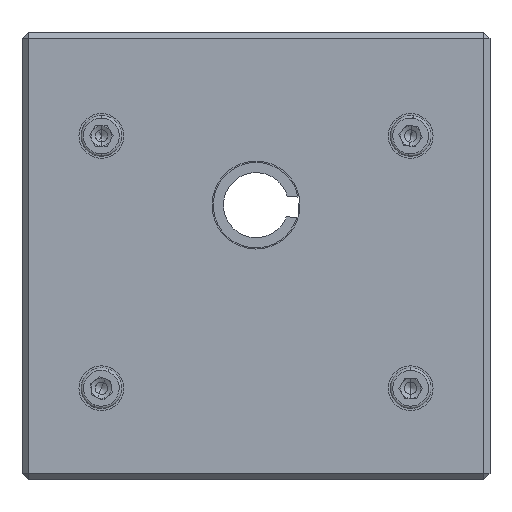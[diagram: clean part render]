
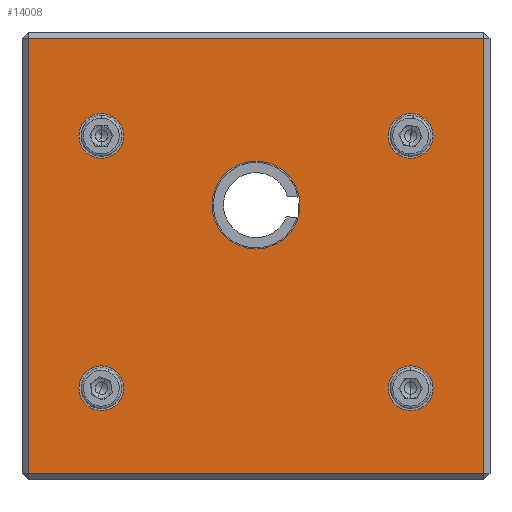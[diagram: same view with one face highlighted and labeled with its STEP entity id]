
A CAD part, left-side view. The second image highlights one B-rep face of the part: STEP entity #14008.
In plain terms, the highlighted planar face has unit normal (-1, 0, 0).
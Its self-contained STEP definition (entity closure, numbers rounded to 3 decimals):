
#560 = DIRECTION ( 'NONE',  ( 0., 0., 1. ) ) ;
#658 = AXIS2_PLACEMENT_3D ( 'NONE', #16464, #27044, #16984 ) ;
#712 = VERTEX_POINT ( 'NONE', #3983 ) ;
#723 = CARTESIAN_POINT ( 'NONE',  ( -16.197, 48.297, 113.304 ) ) ;
#761 = VECTOR ( 'NONE', #6596, 1000. ) ;
#868 = PLANE ( 'NONE',  #11290 ) ;
#883 = VECTOR ( 'NONE', #14846, 1000. ) ;
#912 = EDGE_CURVE ( 'NONE', #18549, #24812, #14171, .T. ) ;
#1653 = LINE ( 'NONE', #9640, #16237 ) ;
#1657 = CIRCLE ( 'NONE', #2220, 5.5 ) ;
#1975 = CARTESIAN_POINT ( 'NONE',  ( -16.197, 86.297, 96.304 ) ) ;
#2124 = VERTEX_POINT ( 'NONE', #20204 ) ;
#2220 = AXIS2_PLACEMENT_3D ( 'NONE', #10323, #29106, #5291 ) ;
#2487 = CARTESIAN_POINT ( 'NONE',  ( -16.197, 124.297, 56.804 ) ) ;
#2941 = EDGE_CURVE ( 'NONE', #15928, #26204, #30650, .T. ) ;
#3021 = VERTEX_POINT ( 'NONE', #2487 ) ;
#3069 = VERTEX_POINT ( 'NONE', #29067 ) ;
#3374 = CIRCLE ( 'NONE', #9995, 10.8 ) ;
#3496 = EDGE_CURVE ( 'NONE', #6159, #13597, #3374, .T. ) ;
#3786 = EDGE_LOOP ( 'NONE', ( #29813, #20638 ) ) ;
#3912 = EDGE_CURVE ( 'NONE', #3021, #2124, #28050, .T. ) ;
#3983 = CARTESIAN_POINT ( 'NONE',  ( -16.197, 48.297, 118.804 ) ) ;
#4140 = EDGE_CURVE ( 'NONE', #7494, #15928, #1653, .T. ) ;
#4377 = CARTESIAN_POINT ( 'NONE',  ( -16.197, 30.297, 137.304 ) ) ;
#4763 = VERTEX_POINT ( 'NONE', #15513 ) ;
#4990 = EDGE_CURVE ( 'NONE', #24812, #18549, #33706, .T. ) ;
#5048 = ORIENTED_EDGE ( 'NONE', *, *, #3496, .T. ) ;
#5096 = DIRECTION ( 'NONE',  ( 1., 0., 0. ) ) ;
#5291 = DIRECTION ( 'NONE',  ( 0., 0., 1. ) ) ;
#5911 = FACE_BOUND ( 'NONE', #24984, .T. ) ;
#5979 = CARTESIAN_POINT ( 'NONE',  ( -16.197, 86.297, 85.504 ) ) ;
#6095 = AXIS2_PLACEMENT_3D ( 'NONE', #26693, #18714, #26847 ) ;
#6100 = EDGE_CURVE ( 'NONE', #4763, #31074, #1657, .T. ) ;
#6159 = VERTEX_POINT ( 'NONE', #5979 ) ;
#6239 = CARTESIAN_POINT ( 'NONE',  ( -16.197, 86.297, 96.304 ) ) ;
#6596 = DIRECTION ( 'NONE',  ( 0., -1., 0. ) ) ;
#7224 = DIRECTION ( 'NONE',  ( 0., 1., 0. ) ) ;
#7494 = VERTEX_POINT ( 'NONE', #4377 ) ;
#7895 = CARTESIAN_POINT ( 'NONE',  ( -16.197, 86.297, 96.304 ) ) ;
#9199 = CARTESIAN_POINT ( 'NONE',  ( -16.197, 142.297, 30.304 ) ) ;
#9433 = ORIENTED_EDGE ( 'NONE', *, *, #6100, .F. ) ;
#9640 = CARTESIAN_POINT ( 'NONE',  ( -16.197, 30.297, 137.304 ) ) ;
#9660 = CARTESIAN_POINT ( 'NONE',  ( -16.197, 48.297, 56.804 ) ) ;
#9738 = AXIS2_PLACEMENT_3D ( 'NONE', #16732, #11490, #19001 ) ;
#9894 = AXIS2_PLACEMENT_3D ( 'NONE', #1975, #5096, #26146 ) ;
#9995 = AXIS2_PLACEMENT_3D ( 'NONE', #7895, #34371, #15412 ) ;
#10323 = CARTESIAN_POINT ( 'NONE',  ( -16.197, 124.297, 113.304 ) ) ;
#10364 = CARTESIAN_POINT ( 'NONE',  ( -16.197, 48.297, 51.304 ) ) ;
#10482 = EDGE_LOOP ( 'NONE', ( #31456, #26971, #12461, #12268 ) ) ;
#10830 = VERTEX_POINT ( 'NONE', #27952 ) ;
#11290 = AXIS2_PLACEMENT_3D ( 'NONE', #6239, #11468, #29558 ) ;
#11462 = AXIS2_PLACEMENT_3D ( 'NONE', #31548, #15750, #23880 ) ;
#11468 = DIRECTION ( 'NONE',  ( -1., 0., 0. ) ) ;
#11490 = DIRECTION ( 'NONE',  ( -1., 0., 0. ) ) ;
#11674 = DIRECTION ( 'NONE',  ( -1., 0., 0. ) ) ;
#12088 = CARTESIAN_POINT ( 'NONE',  ( -16.197, 142.297, 137.304 ) ) ;
#12268 = ORIENTED_EDGE ( 'NONE', *, *, #14053, .T. ) ;
#12461 = ORIENTED_EDGE ( 'NONE', *, *, #2941, .T. ) ;
#12586 = CIRCLE ( 'NONE', #11462, 5.5 ) ;
#12701 = CIRCLE ( 'NONE', #9894, 10.8 ) ;
#13597 = VERTEX_POINT ( 'NONE', #17467 ) ;
#14008 = ADVANCED_FACE ( 'NONE', ( #14096, #24678, #5911, #26777, #16532, #27112 ), #868, .T. ) ;
#14053 = EDGE_CURVE ( 'NONE', #26204, #10830, #22231, .T. ) ;
#14096 = FACE_OUTER_BOUND ( 'NONE', #10482, .T. ) ;
#14171 = CIRCLE ( 'NONE', #27472, 5.5 ) ;
#14846 = DIRECTION ( 'NONE',  ( 0., 0., -1. ) ) ;
#15412 = DIRECTION ( 'NONE',  ( 0., 0., 1. ) ) ;
#15513 = CARTESIAN_POINT ( 'NONE',  ( -16.197, 124.297, 107.804 ) ) ;
#15750 = DIRECTION ( 'NONE',  ( -1., 0., 0. ) ) ;
#15928 = VERTEX_POINT ( 'NONE', #12088 ) ;
#16054 = ORIENTED_EDGE ( 'NONE', *, *, #27930, .F. ) ;
#16237 = VECTOR ( 'NONE', #7224, 1000. ) ;
#16428 = LINE ( 'NONE', #18895, #31685 ) ;
#16464 = CARTESIAN_POINT ( 'NONE',  ( -16.197, 124.297, 113.304 ) ) ;
#16532 = FACE_BOUND ( 'NONE', #25547, .T. ) ;
#16559 = EDGE_CURVE ( 'NONE', #3069, #712, #24511, .T. ) ;
#16732 = CARTESIAN_POINT ( 'NONE',  ( -16.197, 124.297, 51.304 ) ) ;
#16984 = DIRECTION ( 'NONE',  ( 0., 0., 1. ) ) ;
#17467 = CARTESIAN_POINT ( 'NONE',  ( -16.197, 86.297, 107.104 ) ) ;
#17641 = CARTESIAN_POINT ( 'NONE',  ( -16.197, 142.297, 137.304 ) ) ;
#17851 = ORIENTED_EDGE ( 'NONE', *, *, #31895, .F. ) ;
#18357 = ORIENTED_EDGE ( 'NONE', *, *, #16559, .F. ) ;
#18549 = VERTEX_POINT ( 'NONE', #31951 ) ;
#18714 = DIRECTION ( 'NONE',  ( -1., 0., 0. ) ) ;
#18715 = DIRECTION ( 'NONE',  ( 0., 0., 1. ) ) ;
#18719 = AXIS2_PLACEMENT_3D ( 'NONE', #10364, #20977, #28812 ) ;
#18886 = CIRCLE ( 'NONE', #6095, 5.5 ) ;
#18895 = CARTESIAN_POINT ( 'NONE',  ( -16.197, 30.297, 30.304 ) ) ;
#19001 = DIRECTION ( 'NONE',  ( 0., 0., 1. ) ) ;
#19196 = EDGE_LOOP ( 'NONE', ( #17851, #18357 ) ) ;
#19852 = EDGE_CURVE ( 'NONE', #2124, #3021, #12586, .T. ) ;
#19975 = EDGE_LOOP ( 'NONE', ( #31602, #5048 ) ) ;
#20148 = ORIENTED_EDGE ( 'NONE', *, *, #3912, .F. ) ;
#20204 = CARTESIAN_POINT ( 'NONE',  ( -16.197, 124.297, 45.804 ) ) ;
#20617 = AXIS2_PLACEMENT_3D ( 'NONE', #723, #11674, #560 ) ;
#20638 = ORIENTED_EDGE ( 'NONE', *, *, #912, .F. ) ;
#20969 = DIRECTION ( 'NONE',  ( 0., 0., 1. ) ) ;
#20977 = DIRECTION ( 'NONE',  ( -1., 0., 0. ) ) ;
#21622 = EDGE_CURVE ( 'NONE', #10830, #7494, #16428, .T. ) ;
#22231 = LINE ( 'NONE', #9199, #761 ) ;
#23880 = DIRECTION ( 'NONE',  ( 0., 0., 1. ) ) ;
#24511 = CIRCLE ( 'NONE', #20617, 5.5 ) ;
#24678 = FACE_BOUND ( 'NONE', #19196, .T. ) ;
#24812 = VERTEX_POINT ( 'NONE', #9660 ) ;
#24984 = EDGE_LOOP ( 'NONE', ( #20148, #31871 ) ) ;
#25547 = EDGE_LOOP ( 'NONE', ( #16054, #9433 ) ) ;
#26023 = CARTESIAN_POINT ( 'NONE',  ( -16.197, 48.297, 51.304 ) ) ;
#26146 = DIRECTION ( 'NONE',  ( 0., 0., 1. ) ) ;
#26198 = EDGE_CURVE ( 'NONE', #13597, #6159, #12701, .T. ) ;
#26204 = VERTEX_POINT ( 'NONE', #33823 ) ;
#26369 = DIRECTION ( 'NONE',  ( -1., 0., 0. ) ) ;
#26693 = CARTESIAN_POINT ( 'NONE',  ( -16.197, 48.297, 113.304 ) ) ;
#26777 = FACE_BOUND ( 'NONE', #3786, .T. ) ;
#26847 = DIRECTION ( 'NONE',  ( 0., 0., 1. ) ) ;
#26971 = ORIENTED_EDGE ( 'NONE', *, *, #4140, .T. ) ;
#27044 = DIRECTION ( 'NONE',  ( -1., 0., 0. ) ) ;
#27112 = FACE_BOUND ( 'NONE', #19975, .T. ) ;
#27472 = AXIS2_PLACEMENT_3D ( 'NONE', #26023, #26369, #20969 ) ;
#27930 = EDGE_CURVE ( 'NONE', #31074, #4763, #32307, .T. ) ;
#27952 = CARTESIAN_POINT ( 'NONE',  ( -16.197, 30.297, 30.304 ) ) ;
#28050 = CIRCLE ( 'NONE', #9738, 5.5 ) ;
#28812 = DIRECTION ( 'NONE',  ( 0., 0., 1. ) ) ;
#29067 = CARTESIAN_POINT ( 'NONE',  ( -16.197, 48.297, 107.804 ) ) ;
#29106 = DIRECTION ( 'NONE',  ( -1., 0., 0. ) ) ;
#29558 = DIRECTION ( 'NONE',  ( 0., 0., 1. ) ) ;
#29813 = ORIENTED_EDGE ( 'NONE', *, *, #4990, .F. ) ;
#30650 = LINE ( 'NONE', #17641, #883 ) ;
#31074 = VERTEX_POINT ( 'NONE', #33766 ) ;
#31456 = ORIENTED_EDGE ( 'NONE', *, *, #21622, .T. ) ;
#31548 = CARTESIAN_POINT ( 'NONE',  ( -16.197, 124.297, 51.304 ) ) ;
#31602 = ORIENTED_EDGE ( 'NONE', *, *, #26198, .T. ) ;
#31685 = VECTOR ( 'NONE', #18715, 1000. ) ;
#31871 = ORIENTED_EDGE ( 'NONE', *, *, #19852, .F. ) ;
#31895 = EDGE_CURVE ( 'NONE', #712, #3069, #18886, .T. ) ;
#31951 = CARTESIAN_POINT ( 'NONE',  ( -16.197, 48.297, 45.804 ) ) ;
#32307 = CIRCLE ( 'NONE', #658, 5.5 ) ;
#33706 = CIRCLE ( 'NONE', #18719, 5.5 ) ;
#33766 = CARTESIAN_POINT ( 'NONE',  ( -16.197, 124.297, 118.804 ) ) ;
#33823 = CARTESIAN_POINT ( 'NONE',  ( -16.197, 142.297, 30.304 ) ) ;
#34371 = DIRECTION ( 'NONE',  ( 1., 0., 0. ) ) ;
